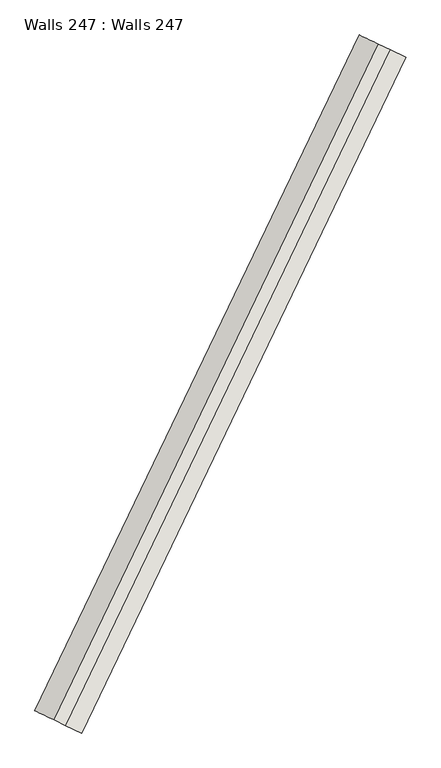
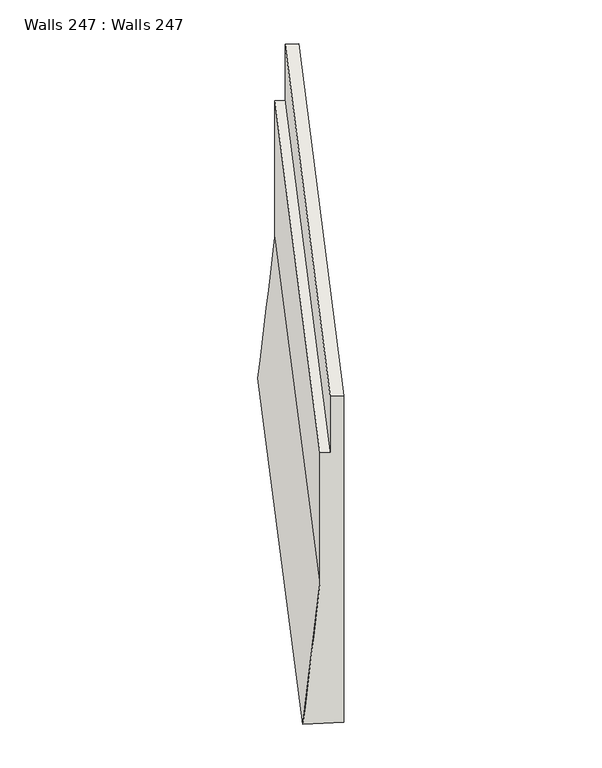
"""IFC4 building model written with IfcOpenShell, lengths in millimetres: wall geometry, Walls 247 : Walls 247."""

from ifc_helpers import new_model, si_unit, frame, origin, place, context, project, spatial, source, transform, mapped, element, save
from ifc_brep_helpers import plane_surface, spline_surface, advanced_brep


def walls_247_walls_247_578fde7f(model_context):
    return source(origin(), model_context, "Body", "AdvancedBrep", [
        advanced_brep(
        [(418829.5306981, 352527.902678, 652520.0), (418649.2495309, 352614.4965913, 652520.0), (418649.2495309, 352614.4965913, 651520.0), (418514.0386555, 352679.4420263, 651520.0), (418514.0386555, 352679.4420263, 649180.0), (418288.6871964, 352787.6844179, 646680.0), (418829.5306981, 352527.902678, 646680.0), (422596.8916063, 360369.9054069, 652730.0), (422596.8916063, 360369.9054069, 646790.0), (422056.0467868, 360629.6877797, 646790.0), (422281.3987949, 360521.4451244, 649290.0), (422281.3987949, 360521.4451244, 651730.0), (422416.6099998, 360456.4995312, 651730.0), (422416.6099998, 360456.4995312, 652730.0)],
        [
            (0, 1),
            (1, 2),
            (2, 3),
            (3, 4),
            (4, 5),
            (5, 6),
            (6, 0),
            (7, 8),
            (8, 9),
            (9, 10),
            (10, 11),
            (11, 12),
            (12, 13),
            (13, 7),
            (13, 1),
            (0, 7),
            (12, 2),
            (11, 3),
            (10, 4),
            (9, 5),
            (8, 6),
        ],
        [
            plane_surface(frame((418610.6178522, 352633.0524299, 650088.5714286), z_axis=(-0.4329706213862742, -0.9014080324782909, 0.0), x_axis=(0.0, 0.0, 1.0))),
            plane_surface(frame((422377.978227, 360475.0554149, 650255.7142857), z_axis=(0.43297062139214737, 0.9014080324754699, 0.0), x_axis=(-0.9014080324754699, 0.43297062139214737, 0.0))),
            plane_surface(frame((422506.7508031, 360413.202469, 652730.0), z_axis=(-0.010447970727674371, -0.02175178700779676, 0.9997088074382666), x_axis=(-0.9014080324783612, 0.4329706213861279, 0.0))),
            plane_surface(frame((422416.6099998, 360456.4995312, 652230.0), z_axis=(-0.9013795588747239, 0.4330298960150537, 0.0), x_axis=(0.0, 0.0, -1.0))),
            plane_surface(frame((422349.0043974, 360488.9723278, 651730.0), z_axis=(-0.010447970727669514, -0.021751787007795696, 0.9997088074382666), x_axis=(-0.9014080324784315, 0.4329706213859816, 0.0))),
            plane_surface(frame((422281.3987949, 360521.4451244, 650510.0), z_axis=(-0.9013795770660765, 0.43302985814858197, 0.0), x_axis=(0.0, 0.0, -1.0))),
            spline_surface(1, 1, [[(422281.3987949, 360521.4451244, 649290.0), (418514.0386555, 352679.4420263, 649180.0)], [(422056.0467868, 360629.6877797, 646790.0), (418288.6871964, 352787.6844179, 646680.0)]], [2, 2], [2, 2], [0.0, 1.0], [0.0, 1.0]),
            plane_surface(frame((422326.4691966, 360499.7965933, 646790.0), z_axis=(0.005473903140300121, 0.01139620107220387, -0.9999200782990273), x_axis=(0.9014080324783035, -0.4329706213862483, 0.0))),
            plane_surface(frame((422596.8916063, 360369.9054069, 649760.0), z_axis=(0.9013795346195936, -0.43302994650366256, 0.0), x_axis=(0.0, 0.0, 1.0))),
        ],
        [
            (0, [[1, 2, 3, 4, 5, 6, 7]]),
            (1, [[8, 9, 10, 11, 12, 13, 14]]),
            (2, [[-14, 15, -1, 16]]),
            (3, [[-13, 17, -2, -15]]),
            (4, [[-12, 18, -3, -17]]),
            (5, [[-11, 19, -4, -18]]),
            (6, [[-10, 20, -5, -19]]),
            (7, [[-9, 21, -6, -20]]),
            (8, [[-8, -16, -7, -21]]),
        ],
    ),
    ])


if __name__ == "__main__":
    model = new_model("IFC4")
    model_context = context("Model", 3, world=origin())
    ifc_project = project(units=[si_unit("LENGTHUNIT", "METRE", prefix="MILLI")], contexts=[model_context])
    site = spatial("IfcSite", under=ifc_project)
    building = spatial("IfcBuilding", under=site)
    placement = place(None, origin())
    walls_247_walls_247_shape = walls_247_walls_247_578fde7f(model_context)
    element("IfcWall", 1, ObjectType="Walls 247 : Walls 247", at=placement, inside=building, context=model_context, shape_type="MappedRepresentation", body=[
        mapped(walls_247_walls_247_shape, transform((0.0, 0.0, 0.0), x_axis=(1.0, 0.0, 0.0), y_axis=(0.0, 1.0, 0.0), z_axis=(0.0, 0.0, 1.0))),
    ])
    save(model, "model.ifc")
